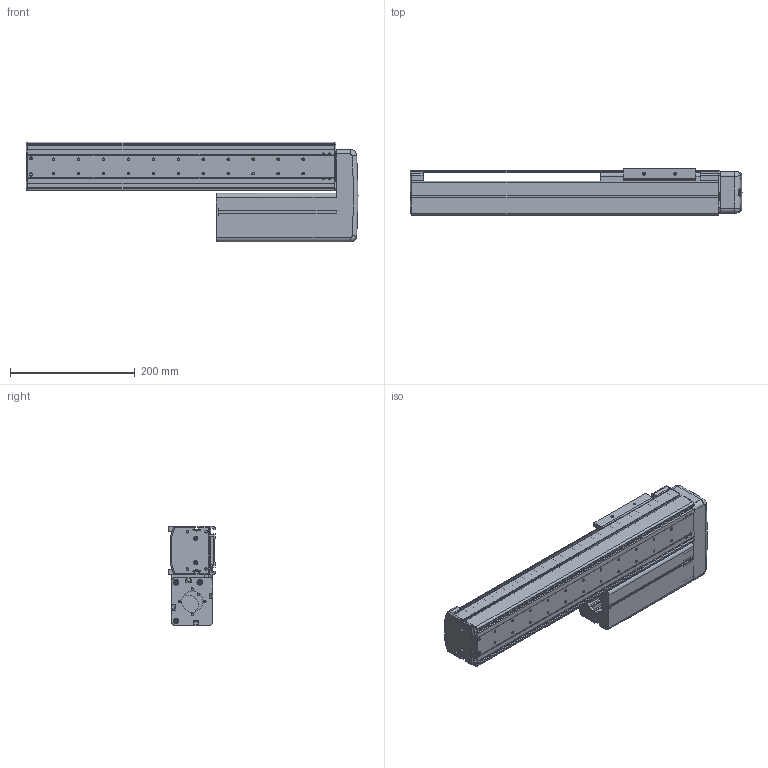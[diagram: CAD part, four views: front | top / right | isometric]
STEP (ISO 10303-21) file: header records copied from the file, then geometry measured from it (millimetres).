
FILE_DESCRIPTION((''),'2;1');
FILE_NAME('BE10E-UL-M_B-30_IGS_PRT','2017-06-17T',(' '),(''),'PRO/ENGINEER BY PARAMETRIC TECHNOLOGY CORPORATION, 2015030','PRO/ENGINEER BY PARAMETRIC TECHNOLOGY CORPORATION, 2015030','');
FILE_SCHEMA(('CONFIG_CONTROL_DESIGN'));
Length unit declared in the file: millimetre
Products named in the file (1): BE10E-UL-M_B-30_IGS_PRT
Bounding box: 532 x 75 x 160 mm (x, y, z)
Volume: 1027547.7 mm3; surface area: 681524 mm2
Topology: 2 solids, 96 shells, 1723 faces, 4638 edges, 2999 vertices
Faces by surface type: cylinder 797, plane 698, cone 81, torus 71, sphere 44, bspline 32
Entity records: 56121 total; most frequent: CARTESIAN_POINT 11819, DIRECTION 9614, ORIENTED_EDGE 8848, EDGE_CURVE 4604, AXIS2_PLACEMENT_3D 3566, VERTEX_POINT 2999, VECTOR 2482, LINE 2482
